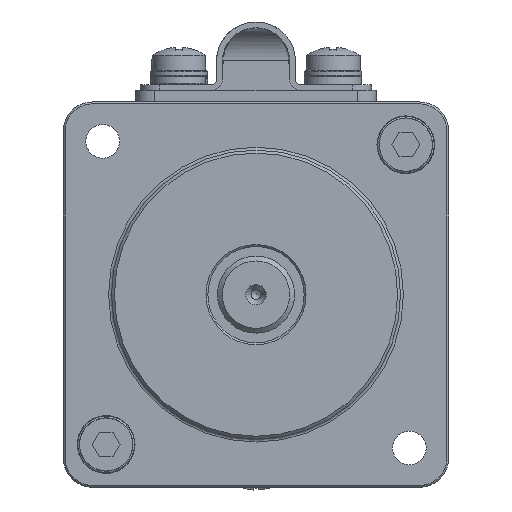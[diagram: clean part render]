
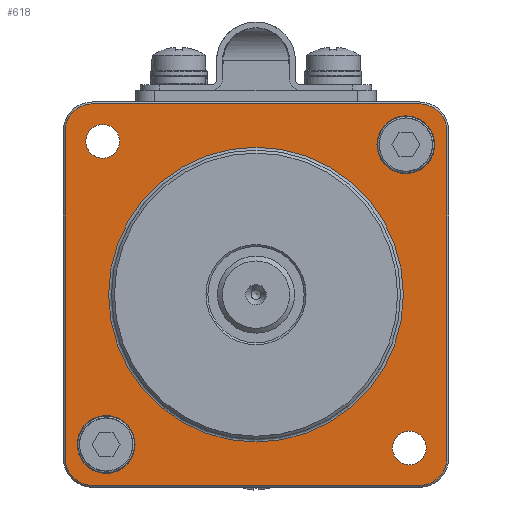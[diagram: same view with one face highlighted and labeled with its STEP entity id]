
A CAD part, front view. The second image highlights one B-rep face of the part: STEP entity #618.
In plain terms, the highlighted planar face has unit normal (0, -1, 0).
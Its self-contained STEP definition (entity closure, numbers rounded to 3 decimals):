
#618=ADVANCED_FACE('',(#1837,#1838,#1839,#1840,#1841,#1842),#1843,.T.);
#1837=FACE_BOUND('',#5228,.T.);
#1838=FACE_BOUND('',#5229,.T.);
#1839=FACE_BOUND('',#5230,.T.);
#1840=FACE_BOUND('',#5231,.T.);
#1841=FACE_BOUND('',#5232,.T.);
#1842=FACE_OUTER_BOUND('',#5233,.T.);
#1843=PLANE('',#5234);
#5228=EDGE_LOOP('',(#9629));
#5229=EDGE_LOOP('',(#9630));
#5230=EDGE_LOOP('',(#9631));
#5231=EDGE_LOOP('',(#9632));
#5232=EDGE_LOOP('',(#9633));
#5233=EDGE_LOOP('',(#9634,#9635,#9636,#9637,#9638,#9639,#9640,#9641));
#5234=AXIS2_PLACEMENT_3D('',#9642,#9643,#9644);
#9629=ORIENTED_EDGE('',*,*,#10226,.T.);
#9630=ORIENTED_EDGE('',*,*,#11416,.T.);
#9631=ORIENTED_EDGE('',*,*,#11417,.T.);
#9632=ORIENTED_EDGE('',*,*,#11418,.T.);
#9633=ORIENTED_EDGE('',*,*,#11419,.T.);
#9634=ORIENTED_EDGE('',*,*,#11420,.T.);
#9635=ORIENTED_EDGE('',*,*,#11421,.T.);
#9636=ORIENTED_EDGE('',*,*,#11422,.T.);
#9637=ORIENTED_EDGE('',*,*,#10218,.T.);
#9638=ORIENTED_EDGE('',*,*,#11423,.T.);
#9639=ORIENTED_EDGE('',*,*,#11424,.T.);
#9640=ORIENTED_EDGE('',*,*,#11425,.T.);
#9641=ORIENTED_EDGE('',*,*,#10177,.T.);
#9642=CARTESIAN_POINT('',(0.,-79.,30.0));
#9643=DIRECTION('',(0.,-1.0,0.));
#9644=DIRECTION('',(0.0,0.,-1.0));
#10177=EDGE_CURVE('',#11655,#11659,#11661,.T.);
#10218=EDGE_CURVE('',#11735,#11733,#11736,.T.);
#10226=EDGE_CURVE('',#11749,#11749,#11750,.T.);
#11416=EDGE_CURVE('',#13701,#13701,#13702,.T.);
#11417=EDGE_CURVE('',#13703,#13703,#13704,.T.);
#11418=EDGE_CURVE('',#13705,#13705,#13706,.T.);
#11419=EDGE_CURVE('',#13707,#13707,#13708,.T.);
#11420=EDGE_CURVE('',#11659,#13709,#13710,.T.);
#11421=EDGE_CURVE('',#13709,#13711,#13712,.T.);
#11422=EDGE_CURVE('',#13711,#11735,#13713,.T.);
#11423=EDGE_CURVE('',#11733,#13714,#13715,.T.);
#11424=EDGE_CURVE('',#13714,#13716,#13717,.T.);
#11425=EDGE_CURVE('',#13716,#11655,#13718,.T.);
#11655=VERTEX_POINT('',#14068);
#11659=VERTEX_POINT('',#14073);
#11661=CIRCLE('',#14076,2.8);
#11733=VERTEX_POINT('',#14177);
#11735=VERTEX_POINT('',#14180);
#11736=CIRCLE('',#14181,2.8);
#11749=VERTEX_POINT('',#14197);
#11750=CIRCLE('',#14198,3.0);
#13701=VERTEX_POINT('',#18965);
#13702=CIRCLE('',#18966,1.75);
#13703=VERTEX_POINT('',#18967);
#13704=CIRCLE('',#18968,1.75);
#13705=VERTEX_POINT('',#18969);
#13706=CIRCLE('',#18970,3.0);
#13707=VERTEX_POINT('',#18971);
#13708=CIRCLE('',#18972,15.3);
#13709=VERTEX_POINT('',#18973);
#13710=LINE('',#18974,#18975);
#13711=VERTEX_POINT('',#18976);
#13712=CIRCLE('',#18977,2.8);
#13713=LINE('',#18978,#18979);
#13714=VERTEX_POINT('',#18980);
#13715=LINE('',#18981,#18982);
#13716=VERTEX_POINT('',#18983);
#13717=CIRCLE('',#18984,2.8);
#13718=LINE('',#18985,#18986);
#14068=CARTESIAN_POINT('',(17.,-79.,-19.8));
#14073=CARTESIAN_POINT('',(19.8,-79.,-17.0));
#14076=AXIS2_PLACEMENT_3D('',#19221,#19222,#19223);
#14177=CARTESIAN_POINT('',(-19.8,-79.,17.0));
#14180=CARTESIAN_POINT('',(-17.,-79.,19.8));
#14181=AXIS2_PLACEMENT_3D('',#19302,#19303,#19304);
#14197=CARTESIAN_POINT('',(-15.556,-79.,-18.556));
#14198=AXIS2_PLACEMENT_3D('',#19320,#19321,#19322);
#18965=CARTESIAN_POINT('',(-15.91,-79.,17.66));
#18966=AXIS2_PLACEMENT_3D('',#21141,#21142,#21143);
#18967=CARTESIAN_POINT('',(15.91,-79.,-17.66));
#18968=AXIS2_PLACEMENT_3D('',#21144,#21145,#21146);
#18969=CARTESIAN_POINT('',(15.556,-79.,18.556));
#18970=AXIS2_PLACEMENT_3D('',#21147,#21148,#21149);
#18971=CARTESIAN_POINT('',(0.,-79.,15.3));
#18972=AXIS2_PLACEMENT_3D('',#21150,#21151,#21152);
#18973=CARTESIAN_POINT('',(19.8,-79.,17.0));
#18974=CARTESIAN_POINT('',(19.8,-79.,30.0));
#18975=VECTOR('',#21153,1.0);
#18976=CARTESIAN_POINT('',(17.,-79.,19.8));
#18977=AXIS2_PLACEMENT_3D('',#21154,#21155,#21156);
#18978=CARTESIAN_POINT('',(0.,-79.,19.8));
#18979=VECTOR('',#21157,1.0);
#18980=CARTESIAN_POINT('',(-19.8,-79.,-17.0));
#18981=CARTESIAN_POINT('',(-19.8,-79.,30.0));
#18982=VECTOR('',#21158,1.0);
#18983=CARTESIAN_POINT('',(-17.,-79.,-19.8));
#18984=AXIS2_PLACEMENT_3D('',#21159,#21160,#21161);
#18985=CARTESIAN_POINT('',(0.,-79.,-19.8));
#18986=VECTOR('',#21162,1.0);
#19221=CARTESIAN_POINT('',(17.,-79.,-17.0));
#19222=DIRECTION('',(0.,-1.0,0.));
#19223=DIRECTION('',(0.,0.,1.0));
#19302=CARTESIAN_POINT('',(-17.,-79.,17.0));
#19303=DIRECTION('',(0.,-1.0,0.));
#19304=DIRECTION('',(0.,0.,1.0));
#19320=CARTESIAN_POINT('',(-15.556,-79.,-15.556));
#19321=DIRECTION('',(0.,1.0,0.));
#19322=DIRECTION('',(0.,0.,-1.0));
#21141=CARTESIAN_POINT('',(-15.91,-79.,15.91));
#21142=DIRECTION('',(0.,1.0,0.));
#21143=DIRECTION('',(0.,0.,1.0));
#21144=CARTESIAN_POINT('',(15.91,-79.,-15.91));
#21145=DIRECTION('',(0.,1.0,0.));
#21146=DIRECTION('',(0.,0.,-1.0));
#21147=CARTESIAN_POINT('',(15.556,-79.,15.556));
#21148=DIRECTION('',(0.,1.0,0.));
#21149=DIRECTION('',(0.,0.,1.0));
#21150=CARTESIAN_POINT('',(0.,-79.,0.));
#21151=DIRECTION('',(0.,1.0,0.));
#21152=DIRECTION('',(0.,0.,1.0));
#21153=DIRECTION('',(0.,0.,1.0));
#21154=CARTESIAN_POINT('',(17.,-79.,17.0));
#21155=DIRECTION('',(0.,-1.0,0.));
#21156=DIRECTION('',(0.,0.,1.0));
#21157=DIRECTION('',(-1.0,0.,0.));
#21158=DIRECTION('',(0.,0.,-1.0));
#21159=CARTESIAN_POINT('',(-17.,-79.,-17.0));
#21160=DIRECTION('',(0.,-1.0,0.));
#21161=DIRECTION('',(0.,0.,1.0));
#21162=DIRECTION('',(1.0,0.,0.));
